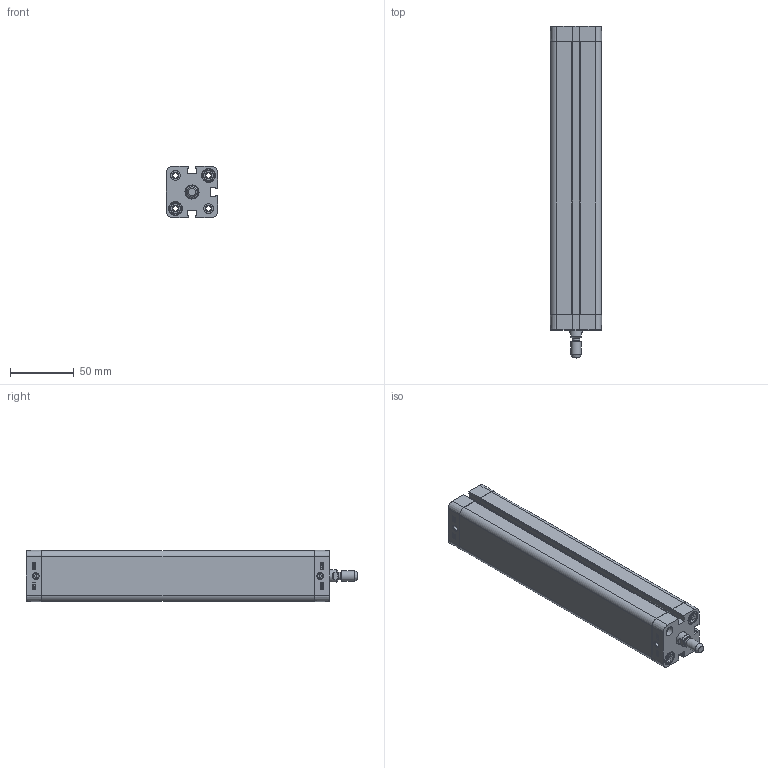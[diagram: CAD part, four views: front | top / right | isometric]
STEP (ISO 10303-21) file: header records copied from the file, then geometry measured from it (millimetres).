
FILE_DESCRIPTION((''),'2;1');
FILE_NAME('T:\Archivio Inventor\- CATALOGHI 2012\SERIE P - NUOVA\PDM\PDM025\PDM025.---.GS.M\PDM025.200.GS.M.stp','2013-01-31T08:09:49',('Administrator'),(''),'Autodesk Inventor 2012','Autodesk Inventor 2012','');
FILE_SCHEMA(('CONFIG_CONTROL_DESIGN'));
Length unit declared in the file: millimetre
Products named in the file (1): PDM025.200.GS.M
Bounding box: 40.3 x 261 x 40.3 mm (x, y, z)
Volume: 181735.5 mm3; surface area: 95496.1 mm2
Topology: 1 solids, 3 shells, 596 faces, 1552 edges, 1017 vertices
Faces by surface type: plane 312, cylinder 130, bspline 92, cone 50, torus 12
Full cylindrical faces by diameter (mm): 2 x2, 4.134 x10, 5.8 x1, 7.5 x4, 7.55 x2, 8 x9, 9 x1, 10 x1, 10.5 x1, 10.8 x4, 11.1 x4, 25 x1, 27.3 x1, 27.5 x1
Entity records: 18782 total; most frequent: CARTESIAN_POINT 4306, ORIENTED_EDGE 2888, DIRECTION 2606, EDGE_CURVE 1444, VERTEX_POINT 1002, VECTOR 898, LINE 898, AXIS2_PLACEMENT_3D 854
